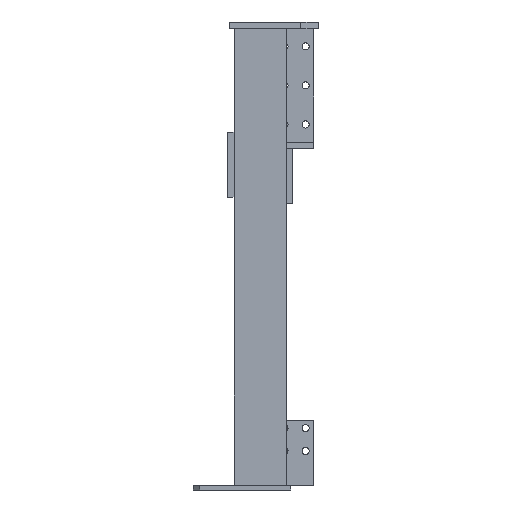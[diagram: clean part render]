
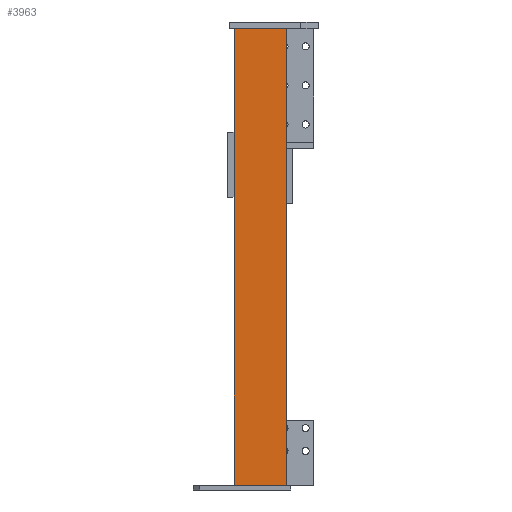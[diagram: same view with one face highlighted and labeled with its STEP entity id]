
A CAD part, left-side view. The second image highlights one B-rep face of the part: STEP entity #3963.
In plain terms, the highlighted planar face has unit normal (-1, 0, 0) as drawn and (0, 1, 0) by its records, which use the part's own axes.
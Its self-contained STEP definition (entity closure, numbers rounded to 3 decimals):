
#281=PLANE('',#4473);
#453=FACE_OUTER_BOUND('',#751,.T.);
#751=EDGE_LOOP('',(#3297,#3298,#3299,#3300));
#1050=LINE('',#6360,#1422);
#1059=LINE('',#6386,#1431);
#1075=LINE('',#6420,#1447);
#1076=LINE('',#6422,#1448);
#1422=VECTOR('',#5223,10.);
#1431=VECTOR('',#5242,10.);
#1447=VECTOR('',#5280,10.);
#1448=VECTOR('',#5283,10.);
#1984=VERTEX_POINT('',#6357);
#1985=VERTEX_POINT('',#6359);
#1996=VERTEX_POINT('',#6383);
#1997=VERTEX_POINT('',#6385);
#2432=EDGE_CURVE('',#1985,#1984,#1050,.T.);
#2445=EDGE_CURVE('',#1996,#1997,#1059,.T.);
#2463=EDGE_CURVE('',#1996,#1985,#1075,.T.);
#2464=EDGE_CURVE('',#1997,#1984,#1076,.T.);
#3297=ORIENTED_EDGE('',*,*,#2432,.T.);
#3298=ORIENTED_EDGE('',*,*,#2464,.F.);
#3299=ORIENTED_EDGE('',*,*,#2445,.F.);
#3300=ORIENTED_EDGE('',*,*,#2463,.T.);
#3963=ADVANCED_FACE('',(#453),#281,.T.);
#4473=AXIS2_PLACEMENT_3D('',#6421,#5281,#5282);
#5223=DIRECTION('',(1.,0.,0.));
#5242=DIRECTION('',(1.,0.,0.));
#5280=DIRECTION('',(0.,0.,1.));
#5281=DIRECTION('center_axis',(0.,1.,0.));
#5282=DIRECTION('ref_axis',(0.,0.,1.));
#5283=DIRECTION('',(0.,0.,1.));
#6357=CARTESIAN_POINT('',(80.,80.,1404.));
#6359=CARTESIAN_POINT('',(-80.,80.,1404.));
#6360=CARTESIAN_POINT('',(-40.,80.,1404.));
#6383=CARTESIAN_POINT('',(-80.,80.,0.));
#6385=CARTESIAN_POINT('',(80.,80.,0.));
#6386=CARTESIAN_POINT('',(-40.,80.,0.));
#6420=CARTESIAN_POINT('',(-80.,80.,0.));
#6421=CARTESIAN_POINT('Origin',(-80.,80.,0.));
#6422=CARTESIAN_POINT('',(80.,80.,0.));
